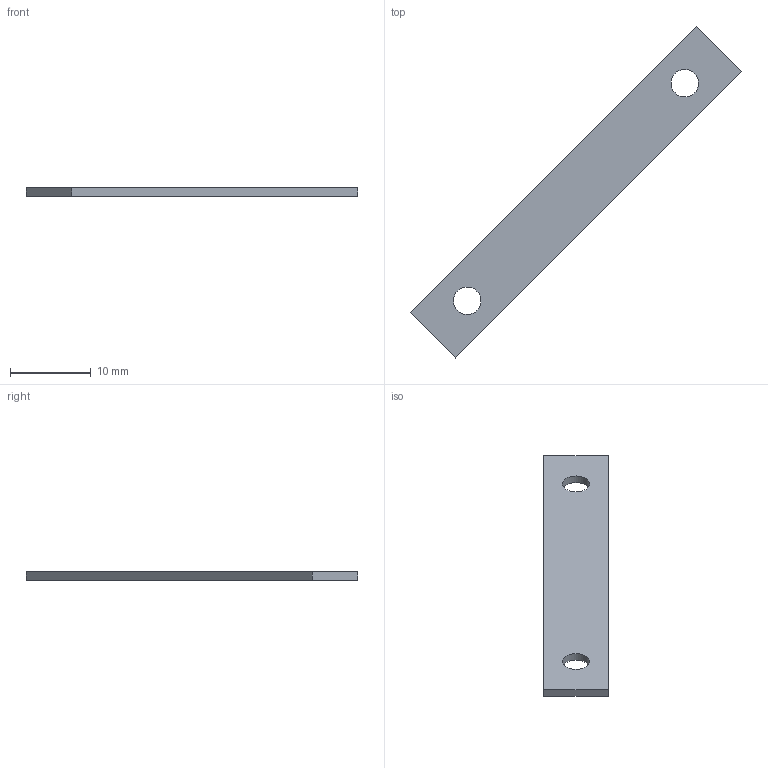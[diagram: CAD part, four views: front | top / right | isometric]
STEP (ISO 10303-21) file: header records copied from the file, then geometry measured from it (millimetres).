
FILE_DESCRIPTION(('Open CASCADE Model'),'2;1');
FILE_NAME('Open CASCADE Shape Model','2026-11-12T16:33:15',('Author'),( 'Open CASCADE'),'Open CASCADE STEP processor 7.9','Open CASCADE 7.9' ,'Unknown');
FILE_SCHEMA(('AUTOMOTIVE_DESIGN { 1 0 10303 214 1 1 1 1 }'));
Length unit declared in the file: millimetre
Products named in the file (1): Open CASCADE STEP translator 7.9 4
Bounding box: 41.01 x 41.01 x 1 mm (x, y, z)
Volume: 381.8 mm3; surface area: 901 mm2
Topology: 1 solids, 1 shells, 8 faces, 18 edges, 12 vertices
Faces by surface type: plane 6, cylinder 2
Full cylindrical faces by diameter (mm): 3.4 x2
Entity records: 478 total; most frequent: DIRECTION 76, CARTESIAN_POINT 75, LINE 46, VECTOR 46, ORIENTED_EDGE 36, PCURVE 36, DEFINITIONAL_REPRESENTATION 36, EDGE_CURVE 18
